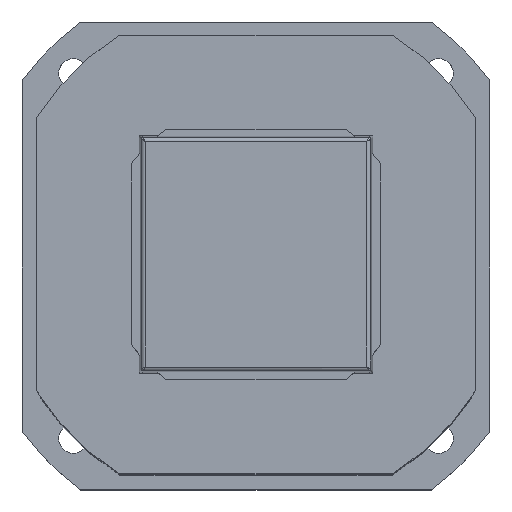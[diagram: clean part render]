
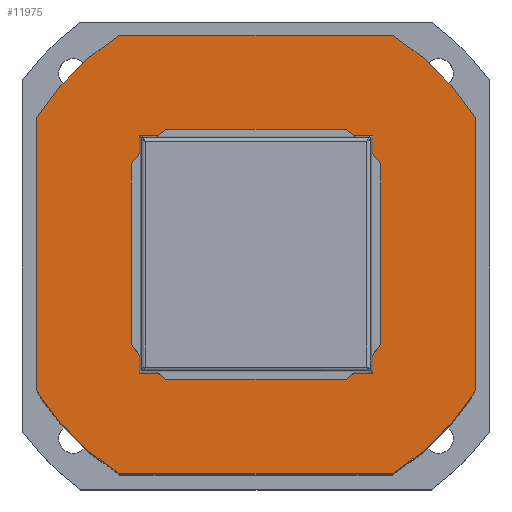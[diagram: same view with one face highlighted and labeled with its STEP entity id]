
A CAD part, top view. The second image highlights one B-rep face of the part: STEP entity #11975.
In plain terms, the highlighted planar face has unit normal (0, 0, 1).
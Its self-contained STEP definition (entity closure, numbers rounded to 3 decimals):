
#3730=CIRCLE('',#13151,132.5);
#3732=CIRCLE('',#13155,132.5);
#3734=CIRCLE('',#13159,132.5);
#3736=CIRCLE('',#13165,132.5);
#4358=VERTEX_POINT('',#16443);
#4359=VERTEX_POINT('',#16445);
#4361=VERTEX_POINT('',#16451);
#4363=VERTEX_POINT('',#16457);
#4365=VERTEX_POINT('',#16463);
#4367=VERTEX_POINT('',#16469);
#4369=VERTEX_POINT('',#16475);
#4371=VERTEX_POINT('',#16481);
#5326=LINE('',#16452,#14322);
#5330=LINE('',#16464,#14326);
#5334=LINE('',#16476,#14330);
#5336=LINE('',#16480,#14332);
#6224=EDGE_CURVE('',#4359,#4358,#3730,.T.);
#6228=EDGE_CURVE('',#4358,#4361,#5326,.T.);
#6231=EDGE_CURVE('',#4361,#4363,#3732,.T.);
#6234=EDGE_CURVE('',#4363,#4365,#5330,.T.);
#6237=EDGE_CURVE('',#4365,#4367,#3734,.T.);
#6240=EDGE_CURVE('',#4367,#4369,#5334,.T.);
#6242=EDGE_CURVE('',#4371,#4359,#5336,.T.);
#6245=EDGE_CURVE('',#4369,#4371,#3736,.T.);
#7883=ORIENTED_EDGE('',*,*,#6240,.T.);
#7884=ORIENTED_EDGE('',*,*,#6245,.T.);
#7885=ORIENTED_EDGE('',*,*,#6242,.T.);
#7886=ORIENTED_EDGE('',*,*,#6224,.T.);
#7887=ORIENTED_EDGE('',*,*,#6228,.T.);
#7888=ORIENTED_EDGE('',*,*,#6231,.T.);
#7889=ORIENTED_EDGE('',*,*,#6234,.T.);
#7890=ORIENTED_EDGE('',*,*,#6237,.T.);
#10380=EDGE_LOOP('',(#7883,#7884,#7885,#7886,#7887,#7888,#7889,#7890));
#11194=FACE_BOUND('',#10380,.T.);
#11975=ADVANCED_FACE('',(#11194),#15120,.T.);
#13151=AXIS2_PLACEMENT_3D('',#16444,#21739,#21740);
#13155=AXIS2_PLACEMENT_3D('',#16458,#21751,#21752);
#13159=AXIS2_PLACEMENT_3D('',#16470,#21762,#21763);
#13165=AXIS2_PLACEMENT_3D('',#16486,#21777,#21778);
#13166=AXIS2_PLACEMENT_3D('',#16487,#21779,$);
#14322=VECTOR('',#21745,1.);
#14326=VECTOR('',#21756,1.);
#14330=VECTOR('',#21767,1.);
#14332=VECTOR('',#21770,1.);
#15120=PLANE('',#13166);
#16443=CARTESIAN_POINT('',(-70.,-112.5,0.));
#16444=CARTESIAN_POINT('',(0.,0.,0.));
#16445=CARTESIAN_POINT('',(-112.5,-70.,0.));
#16451=CARTESIAN_POINT('',(70.,-112.5,0.));
#16452=CARTESIAN_POINT('',(-70.,-112.5,0.));
#16457=CARTESIAN_POINT('',(112.5,-70.,0.));
#16458=CARTESIAN_POINT('',(0.,0.,0.));
#16463=CARTESIAN_POINT('',(112.5,70.,0.));
#16464=CARTESIAN_POINT('',(112.5,-70.,0.));
#16469=CARTESIAN_POINT('',(70.,112.5,0.));
#16470=CARTESIAN_POINT('',(0.,0.,0.));
#16475=CARTESIAN_POINT('',(-70.,112.5,0.));
#16476=CARTESIAN_POINT('',(70.,112.5,0.));
#16480=CARTESIAN_POINT('',(-112.5,70.,0.));
#16481=CARTESIAN_POINT('',(-112.5,70.,0.));
#16486=CARTESIAN_POINT('',(0.,0.,0.));
#16487=CARTESIAN_POINT('',(0.,0.,0.));
#21739=DIRECTION('',(0.,0.,1.));
#21740=DIRECTION('',(132.5,0.,0.));
#21745=DIRECTION('',(1.,0.,0.));
#21751=DIRECTION('',(0.,0.,1.));
#21752=DIRECTION('',(132.5,0.,0.));
#21756=DIRECTION('',(0.,1.,0.));
#21762=DIRECTION('',(0.,0.,1.));
#21763=DIRECTION('',(132.5,0.,0.));
#21767=DIRECTION('',(-1.,0.,0.));
#21770=DIRECTION('',(0.,-1.,0.));
#21777=DIRECTION('',(0.,0.,1.));
#21778=DIRECTION('',(132.5,0.,0.));
#21779=DIRECTION('',(0.,0.,1.));
